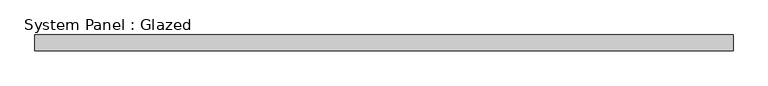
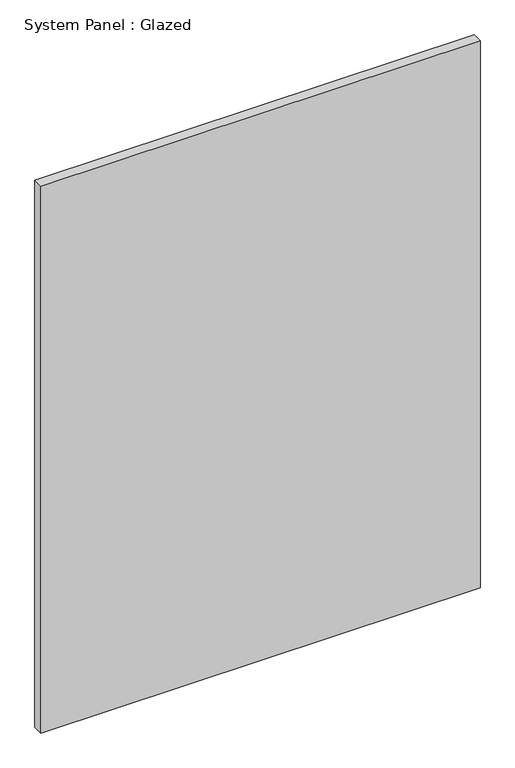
"""IFC4 building model written with IfcOpenShell, lengths in millimetres: plate geometry, System Panel : Glazed."""

from ifc_helpers import new_model, si_unit, origin, origin_with_axes, place, context, project, spatial, polyline, outline, extrude, source, transform, mapped, element, save


def system_panel_glazed_b4114ee2(model_context):
    return source(origin(), model_context, "Body", "SweptSolid", [
        extrude(outline(polyline([(557.2125, 19.05), (-557.2125, 19.05), (-557.2125, 44.45), (557.2125, 44.45), (557.2125, 19.05)])), origin_with_axes(), (0.0, 0.0, 1.0), 1466.85),
    ])


if __name__ == "__main__":
    model = new_model("IFC4")
    model_context = context("Model", 3, world=origin())
    ifc_project = project(units=[si_unit("LENGTHUNIT", "METRE", prefix="MILLI")], contexts=[model_context])
    site = spatial("IfcSite", under=ifc_project)
    building = spatial("IfcBuilding", under=site)
    placement = place(None, origin())
    system_panel_glazed_shape = system_panel_glazed_b4114ee2(model_context)
    element("IfcPlate", 1, ObjectType="System Panel : Glazed", at=placement, inside=building, context=model_context, shape_type="MappedRepresentation", body=[
        mapped(system_panel_glazed_shape, transform((0.0, 0.0, 0.0), x_axis=(1.0, 0.0, 0.0), y_axis=(0.0, 1.0, 0.0), z_axis=(0.0, 0.0, 1.0))),
    ])
    save(model, "model.ifc")
